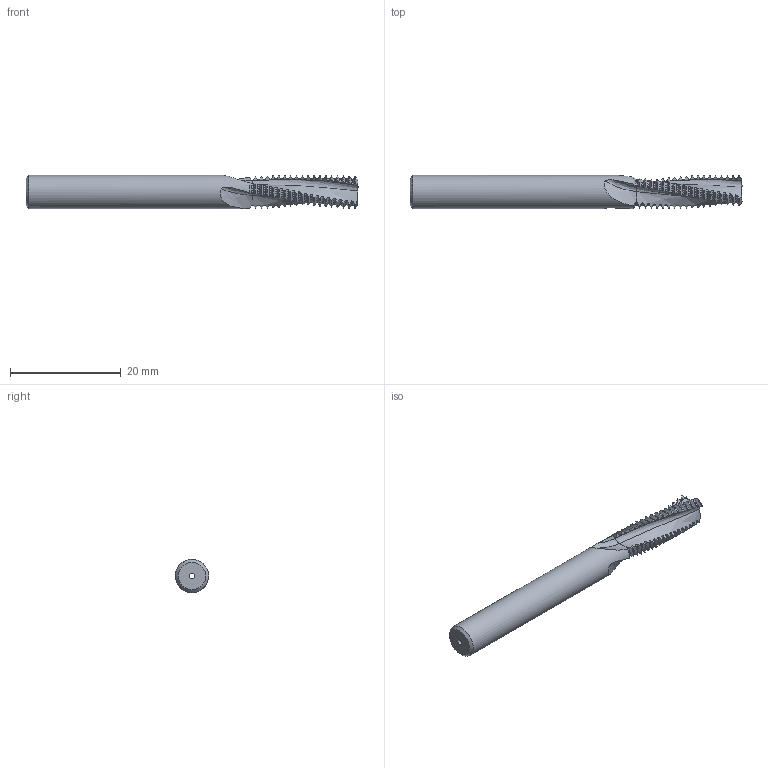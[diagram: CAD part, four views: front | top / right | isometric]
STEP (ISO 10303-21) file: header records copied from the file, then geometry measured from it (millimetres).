
FILE_DESCRIPTION(/* description */ (''),/* implementation_level */ '2;1');
FILE_NAME(/* name */ '00032327-STEP',/* time_stamp */ '2024-02-21T06:53:01+01:00',/* author */ (''),/* organization */ (''),/* preprocessor_version */ 'ST-DEVELOPER v16.5',/* originating_system */ 'HiCAD 2017 2201.0 Build 268',/* authorisation */ '');
FILE_SCHEMA (('AUTOMOTIVE_DESIGN { 1 0 10303 214 1 1 1 1 }'));
Products named in the file (2): Root; ROTATIONSTEIL_0
Assembly tree (1 placements, depth 2):
  Root
    ROTATIONSTEIL_0
Bounding box: 60 x 6 x 6 mm (x, y, z)
Volume: 1294.8 mm3; surface area: 1377.1 mm2
Topology: 1 solids, 1 shells, 356 faces, 1168 edges, 814 vertices
Faces by surface type: torus 165, cone 112, cylinder 59, bspline 18, plane 2
Full cylindrical faces by diameter (mm): 1 x1, 6 x1
Entity records: 40040 total; most frequent: CARTESIAN_POINT 20287, PRESENTATION_STYLE_ASSIGNMENT 2325, COLOUR_RGB 2325, DRAUGHTING_PRE_DEFINED_CURVE_FONT 2324, CURVE_STYLE 2324, OVER_RIDING_STYLED_ITEM 2324, ORIENTED_EDGE 2324, DIRECTION 1362
